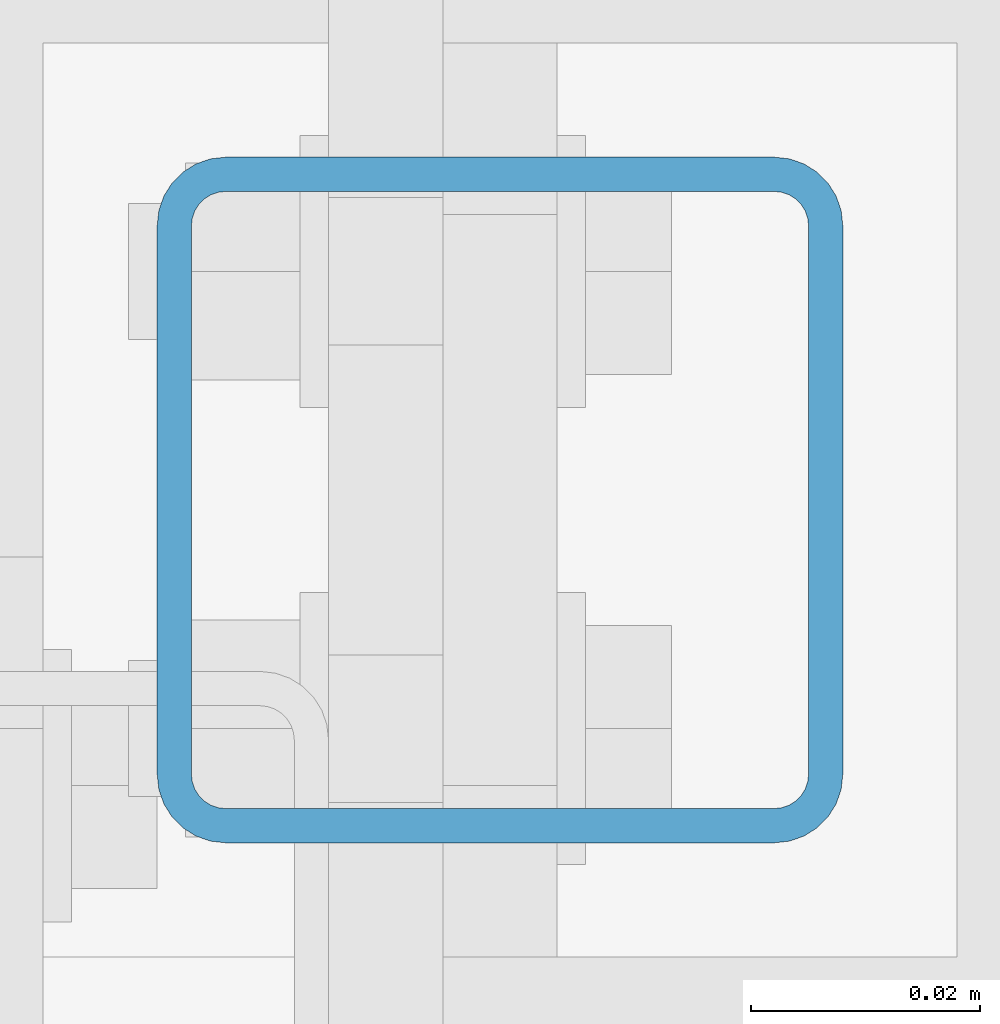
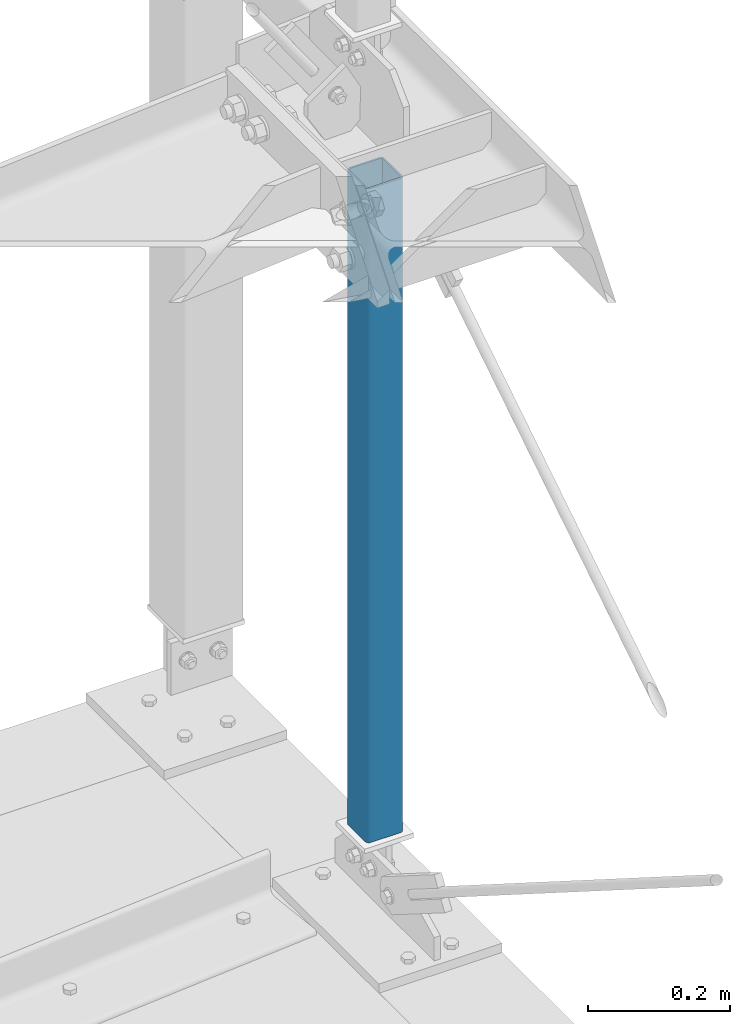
# One storey, part 55 of 271: 1 beam, 1 element without a shape of its own.
"""IFC2X3 building model written with IfcOpenShell, lengths in millimetres."""

from ifc_helpers import new_model, si_unit, frame, origin_with_axes, origin_2d_with_axis, place, context, subcontext, project, spatial, hollow_rectangle, extrude, clip, halfspace, material, type_object, element, aggregate, save


model = new_model("IFC2X3")

# Units and contexts
model_context = context("Model", 3, precision=1e-05, world=origin_with_axes())
body_context = subcontext(model_context, "Body", "Model", "MODEL_VIEW")
ifc_project = project(units=[si_unit("LENGTHUNIT", "METRE", prefix="MILLI"), si_unit("AREAUNIT", "SQUARE_METRE"), si_unit("VOLUMEUNIT", "CUBIC_METRE"), si_unit("MASSUNIT", "GRAM", prefix="KILO"), si_unit("TIMEUNIT", "SECOND"), si_unit("PLANEANGLEUNIT", "RADIAN"), si_unit("SOLIDANGLEUNIT", "STERADIAN"), si_unit("THERMODYNAMICTEMPERATUREUNIT", "DEGREE_CELSIUS"), si_unit("LUMINOUSINTENSITYUNIT", "LUMEN")], contexts=[model_context])

# Site, building, storey
site_placement = place(None, origin_with_axes())
site = spatial("IfcSite", under=ifc_project, at=site_placement, Name="Undefined", CompositionType="ELEMENT")
building_placement = place(site_placement, origin_with_axes())
building = spatial("IfcBuilding", under=site, at=building_placement, Name="Undefined", CompositionType="ELEMENT")
storey_placement = place(building_placement, origin_with_axes())
storey = spatial("IfcBuildingStorey", under=building, at=storey_placement, Name="Undefined", CompositionType="ELEMENT", Elevation=0.0)

# Assembly, beam
assembly_placement = place(storey_placement, origin_with_axes())
assembly = element("IfcElementAssembly", 1, at=assembly_placement, inside=storey, AssemblyPlace="NOTDEFINED", PredefinedType="RIGID_FRAME")
ifc_material = material(Name="STEEL/S355JR")
beam_type = type_object("IfcBeamType", Name="SHS60*3", PredefinedType="NOTDEFINED")
beam_placement = place(assembly_placement, frame((12618.751374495, 4337.19355050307, 4.34999990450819), z_axis=(0.0, 1.0, 0.0), x_axis=(0.0, 0.0, 1.0)))
beam = element("IfcBeam", 2, at=beam_placement, type_object=beam_type, material=ifc_material, Name="TĘŻNIK", ObjectType="SHS60*3", context=body_context, shape_type="Clipping", body=[
    clip(clip(extrude(hollow_rectangle(XDim=60.0, YDim=60.0, WallThickness=3.0, InnerFilletRadius=3.0, OuterFilletRadius=6.0, at=origin_2d_with_axis()), frame((1360.0, 0.0, 0.0), z_axis=(-1.0, 0.0, 1.38777878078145e-17), x_axis=(0.0, -1.0, 0.0)), (0.0, 0.0, 1.0), 1360.0), halfspace(frame((1228.7000000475, -15.0, 0.0), z_axis=(-1.0, 0.0, 1.38777878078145e-17), x_axis=(0.0, 0.0, -1.0)), True)), halfspace(frame((103.6500000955, -15.0, 0.0), z_axis=(1.0, 0.0, 0.0), x_axis=(0.0, 0.0, 1.0)), True)),
])
aggregate(assembly, [beam])

save(model, "model.ifc")
